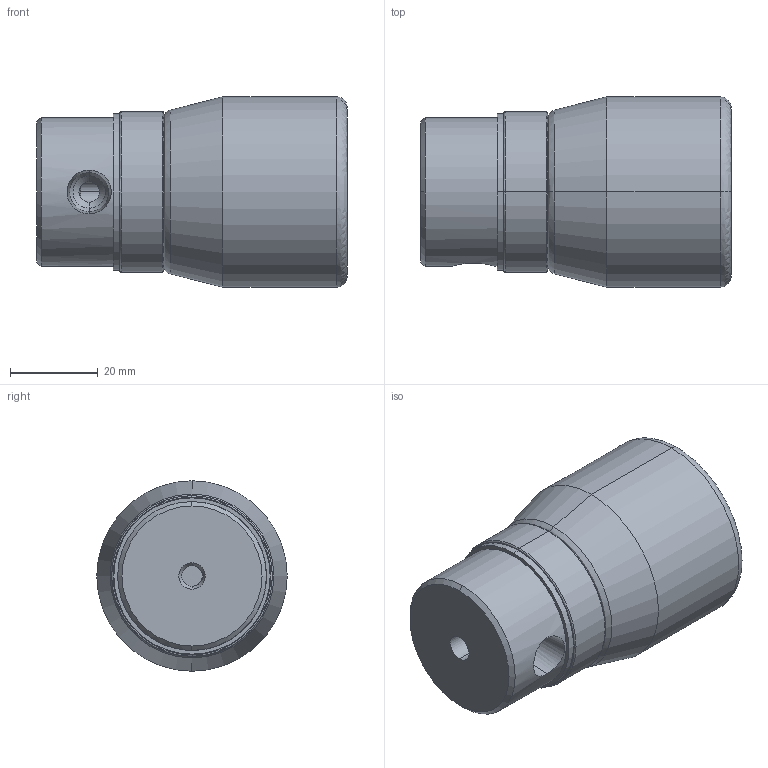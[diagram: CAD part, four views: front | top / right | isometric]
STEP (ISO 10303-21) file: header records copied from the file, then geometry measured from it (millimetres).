
FILE_DESCRIPTION( (''), '2;1');
FILE_NAME ('TGMX25.1684.RBP035TCA_22985.stp','2015-03-30T15:11:22',(''),(''),'spGate 11.3.7','spGate','');
FILE_SCHEMA (('AUTOMOTIVE_DESIGN'));
Length unit declared in the file: millimetre
Bounding box: 71 x 43.5 x 43.5 mm (x, y, z)
Volume: 83621.1 mm3; surface area: 12535.3 mm2
Topology: 1 solids, 1 shells, 47 faces, 104 edges, 63 vertices
Faces by surface type: bspline 22, cylinder 18, plane 7
Entity records: 2494 total; most frequent: CARTESIAN_POINT 721, ORIENTED_EDGE 208, DIRECTION 162, COLOUR_RGB 152, PRESENTATION_STYLE_ASSIGNMENT 152, STYLED_ITEM 152, EDGE_CURVE 104, DRAUGHTING_PRE_DEFINED_CURVE_FONT 104
